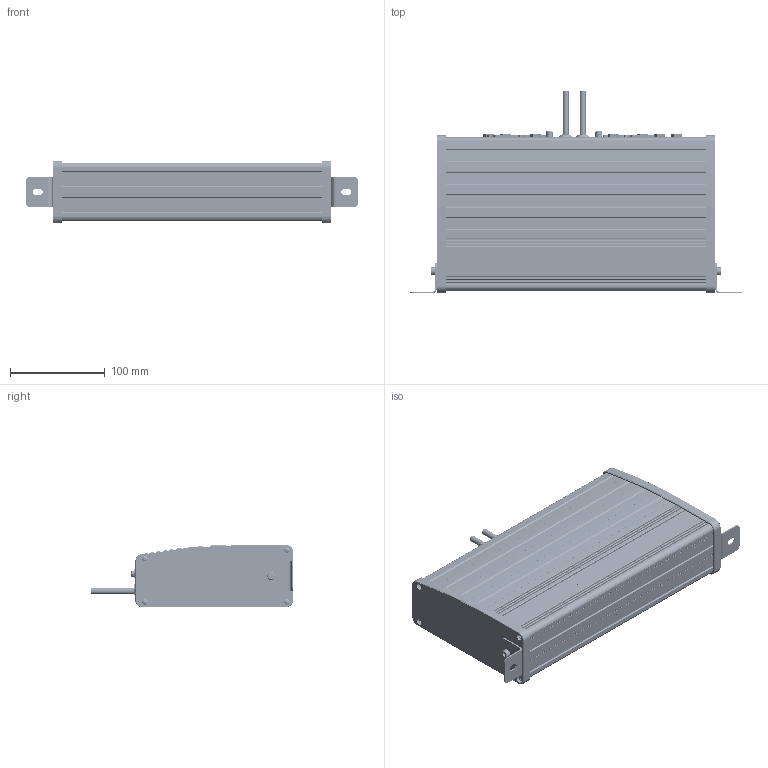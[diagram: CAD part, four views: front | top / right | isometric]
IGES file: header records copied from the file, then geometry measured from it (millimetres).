
Global section: file name: /home/users/pf123904/RLU_V.igs; native system: Unigraphics Version X V1.0; preprocessor: Unigraphics NX IGES V1.0; date: 20050815.160938; units: millimetre
Bounding box: 350 x 213.34 x 66.3 mm (x, y, z)
Surface area: 189887.4 mm2 (no closed solid volume)
Topology: 0 solids, 0 shells, 9962 faces, 67522 edges, 67342 vertices
Faces by surface type: extrusion 9103, revolution 859
